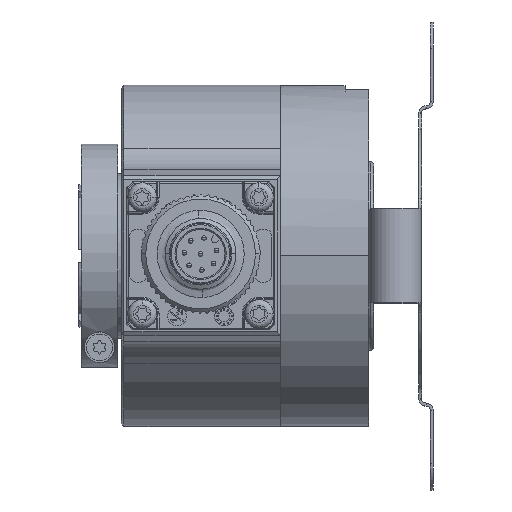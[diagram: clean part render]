
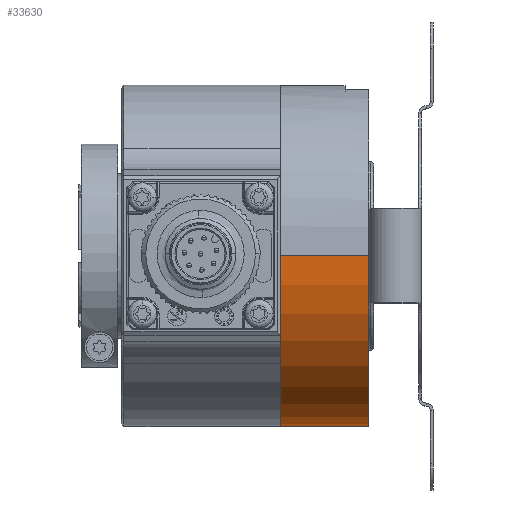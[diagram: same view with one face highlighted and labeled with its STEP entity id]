
A CAD part, top view. The second image highlights one B-rep face of the part: STEP entity #33630.
In plain terms, the highlighted cylindrical face has radius 29 mm (diameter 58 mm), a partial arc.
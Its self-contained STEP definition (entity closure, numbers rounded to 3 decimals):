
#1422 = EDGE_CURVE ( 'NONE', #23999, #49251, #8211, .T. ) ;
#1655 = EDGE_LOOP ( 'NONE', ( #51036, #47943, #31472, #28248 ) ) ;
#5812 = DIRECTION ( 'NONE',  ( 0., 0., 1. ) ) ;
#7222 = VERTEX_POINT ( 'NONE', #8406 ) ;
#7437 = CARTESIAN_POINT ( 'NONE',  ( -21.996, 0., 29. ) ) ;
#8211 = LINE ( 'NONE', #7437, #28401 ) ;
#8406 = CARTESIAN_POINT ( 'NONE',  ( 0., 0., -29. ) ) ;
#8866 = DIRECTION ( 'NONE',  ( 0., 0., 1. ) ) ;
#12604 = DIRECTION ( 'NONE',  ( -1., 0., 0. ) ) ;
#13645 = DIRECTION ( 'NONE',  ( -1., 0., 0. ) ) ;
#13777 = CARTESIAN_POINT ( 'NONE',  ( 0., 0., 0. ) ) ;
#16057 = EDGE_CURVE ( 'NONE', #34990, #7222, #41974, .T. ) ;
#16787 = AXIS2_PLACEMENT_3D ( 'NONE', #37872, #42096, #5812 ) ;
#17493 = CIRCLE ( 'NONE', #19168, 29. ) ;
#17865 = CARTESIAN_POINT ( 'NONE',  ( -21.996, 0., -29. ) ) ;
#19168 = AXIS2_PLACEMENT_3D ( 'NONE', #13777, #42118, #29676 ) ;
#23999 = VERTEX_POINT ( 'NONE', #36016 ) ;
#24364 = DIRECTION ( 'NONE',  ( -1., 0., 0. ) ) ;
#24748 = FACE_OUTER_BOUND ( 'NONE', #1655, .T. ) ;
#28248 = ORIENTED_EDGE ( 'NONE', *, *, #42366, .F. ) ;
#28401 = VECTOR ( 'NONE', #24364, 1000. ) ;
#28472 = CARTESIAN_POINT ( 'NONE',  ( -21.996, 0., 0. ) ) ;
#29676 = DIRECTION ( 'NONE',  ( 0., 0., 1. ) ) ;
#31472 = ORIENTED_EDGE ( 'NONE', *, *, #1422, .T. ) ;
#33630 = ADVANCED_FACE ( 'NONE', ( #24748 ), #50123, .T. ) ;
#33734 = CIRCLE ( 'NONE', #16787, 29. ) ;
#34531 = VECTOR ( 'NONE', #13645, 1000. ) ;
#34990 = VERTEX_POINT ( 'NONE', #52012 ) ;
#36016 = CARTESIAN_POINT ( 'NONE',  ( 15., 0., 29. ) ) ;
#37872 = CARTESIAN_POINT ( 'NONE',  ( 15., 0., 0. ) ) ;
#38130 = CARTESIAN_POINT ( 'NONE',  ( 0., 0., 29. ) ) ;
#41974 = LINE ( 'NONE', #17865, #34531 ) ;
#42096 = DIRECTION ( 'NONE',  ( -1., 0., 0. ) ) ;
#42118 = DIRECTION ( 'NONE',  ( -1., 0., 0. ) ) ;
#42366 = EDGE_CURVE ( 'NONE', #7222, #49251, #17493, .T. ) ;
#43863 = EDGE_CURVE ( 'NONE', #34990, #23999, #33734, .T. ) ;
#47943 = ORIENTED_EDGE ( 'NONE', *, *, #43863, .T. ) ;
#49251 = VERTEX_POINT ( 'NONE', #38130 ) ;
#49504 = AXIS2_PLACEMENT_3D ( 'NONE', #28472, #12604, #8866 ) ;
#50123 = CYLINDRICAL_SURFACE ( 'NONE', #49504, 29. ) ;
#51036 = ORIENTED_EDGE ( 'NONE', *, *, #16057, .F. ) ;
#52012 = CARTESIAN_POINT ( 'NONE',  ( 15., 0., -29. ) ) ;
